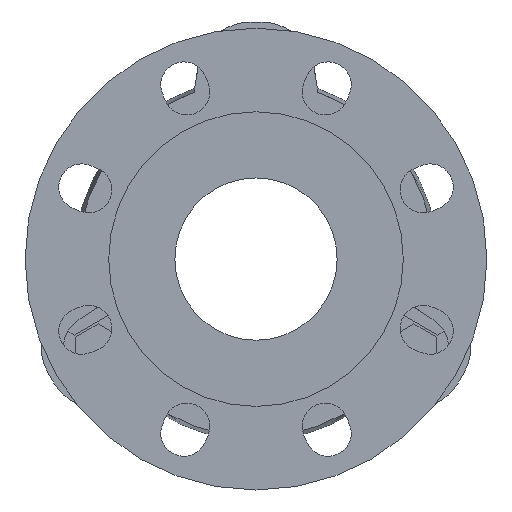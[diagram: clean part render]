
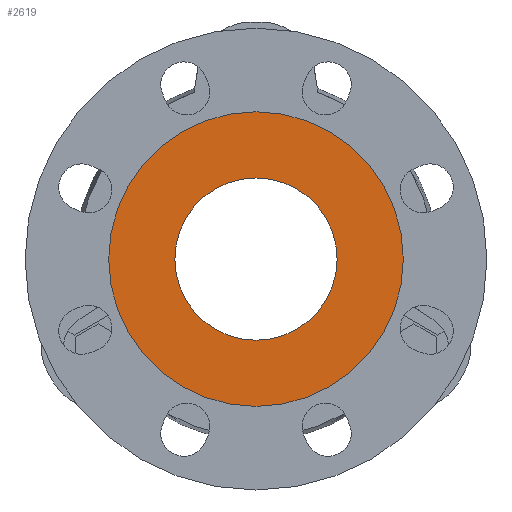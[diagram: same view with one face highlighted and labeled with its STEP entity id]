
A CAD part, left-side view. The second image highlights one B-rep face of the part: STEP entity #2619.
In plain terms, the highlighted planar face has unit normal (-1, 0, 0).
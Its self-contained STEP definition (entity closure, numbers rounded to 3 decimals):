
#173=CARTESIAN_POINT('',(-105.,0.,0.));
#174=DIRECTION('',(-1.,0.,0.));
#175=DIRECTION('',(0.,1.,0.));
#176=AXIS2_PLACEMENT_3D('',#173,#174,#175);
#178=CARTESIAN_POINT('',(-105.,0.,0.));
#179=DIRECTION('',(1.,0.,0.));
#180=DIRECTION('',(0.,1.,0.));
#181=AXIS2_PLACEMENT_3D('',#178,#179,#180);
#183=CARTESIAN_POINT('',(-105.,0.,0.));
#184=DIRECTION('',(1.,0.,0.));
#185=DIRECTION('',(0.,1.,0.));
#186=AXIS2_PLACEMENT_3D('',#183,#184,#185);
#196=CARTESIAN_POINT('',(-105.,0.,0.));
#197=DIRECTION('',(-1.,0.,0.));
#198=DIRECTION('',(0.,1.,0.));
#199=AXIS2_PLACEMENT_3D('',#196,#197,#198);
#1984=CARTESIAN_POINT('',(-105.,59.,0.));
#1986=VERTEX_POINT('',#1984);
#1987=CARTESIAN_POINT('',(-105.,32.5,0.));
#1989=VERTEX_POINT('',#1987);
#2004=CARTESIAN_POINT('',(-105.,-59.,0.));
#2006=VERTEX_POINT('',#2004);
#2007=CARTESIAN_POINT('',(-105.,-32.5,0.));
#2009=VERTEX_POINT('',#2007);
#2604=CARTESIAN_POINT('',(-105.,0.,0.));
#2605=DIRECTION('',(1.,0.,0.));
#2606=DIRECTION('',(0.,-1.,0.));
#2607=AXIS2_PLACEMENT_3D('',#2604,#2605,#2606);
#2608=PLANE('',#2607);
#2609=ORIENTED_EDGE('',*,*,#2597,.F.);
#2610=ORIENTED_EDGE('',*,*,#2586,.T.);
#2611=EDGE_LOOP('',(#2609,#2610));
#2612=FACE_OUTER_BOUND('',#2611,.F.);
#2614=ORIENTED_EDGE('',*,*,#2613,.F.);
#2616=ORIENTED_EDGE('',*,*,#2615,.T.);
#2617=EDGE_LOOP('',(#2614,#2616));
#2618=FACE_BOUND('',#2617,.F.);
#2619=ADVANCED_FACE('',(#2612,#2618),#2608,.F.);
#177=CIRCLE('',#176,59.);
#182=CIRCLE('',#181,59.);
#187=CIRCLE('',#186,32.5);
#200=CIRCLE('',#199,32.5);
#2586=EDGE_CURVE('',#1986,#2006,#182,.T.);
#2597=EDGE_CURVE('',#1986,#2006,#177,.T.);
#2613=EDGE_CURVE('',#1989,#2009,#187,.T.);
#2615=EDGE_CURVE('',#1989,#2009,#200,.T.);
